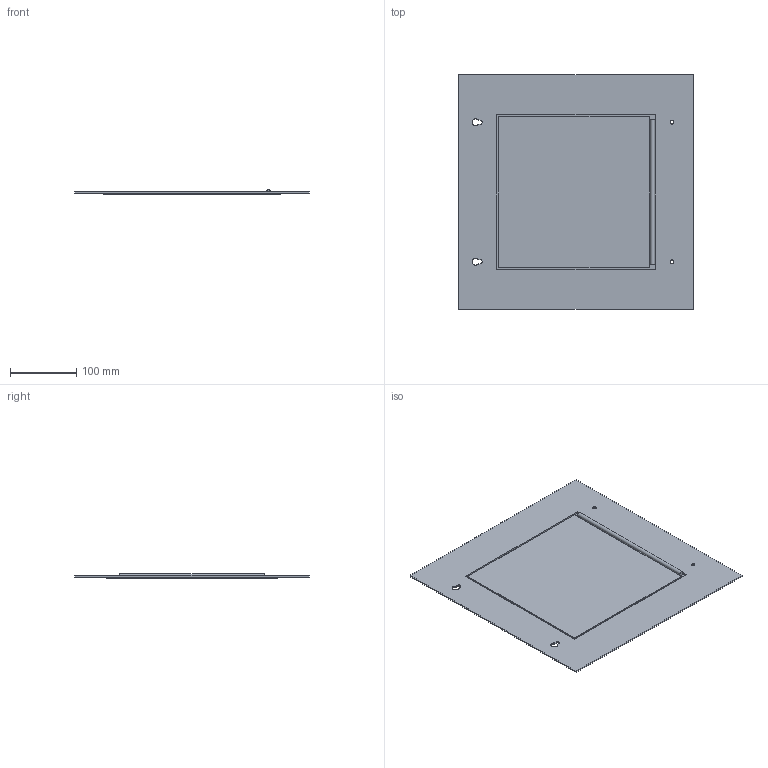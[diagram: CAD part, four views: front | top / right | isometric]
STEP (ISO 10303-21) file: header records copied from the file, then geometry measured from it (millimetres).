
FILE_DESCRIPTION((''),'1');
FILE_NAME('2','2001-04-17T',('jlue'),(''),'PRO/ENGINEER BY PARAMETRIC TECHNOLOGY CORPORATION, 9846','PRO/ENGINEER BY PARAMETRIC TECHNOLOGY CORPORATION, 9846','');
FILE_SCHEMA(('CONFIG_CONTROL_DESIGN'));
Length unit declared in the file: inch
Products named in the file (1): 2
Bounding box: 355.6 x 355.6 x 7.46 mm (x, y, z)
Surface area: 270100.9 mm2 (no closed solid volume)
Topology: 0 solids, 0 shells, 53 faces, 324 edges, 350 vertices
Faces by surface type: plane 40, cylinder 13
Entity records: 1631 total; most frequent: DIRECTION 312, COMPOSITE_CURVE_SEGMENT 298, CARTESIAN_POINT 228, TRIMMED_CURVE 175, VECTOR 144, LINE 144, AXIS2_PLACEMENT_3D 84, CURVE_BOUNDED_SURFACE 53
